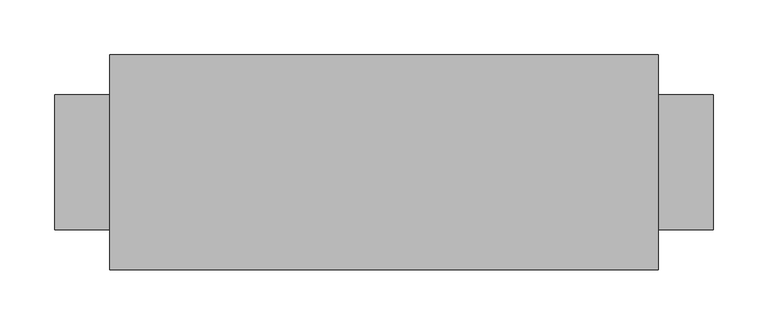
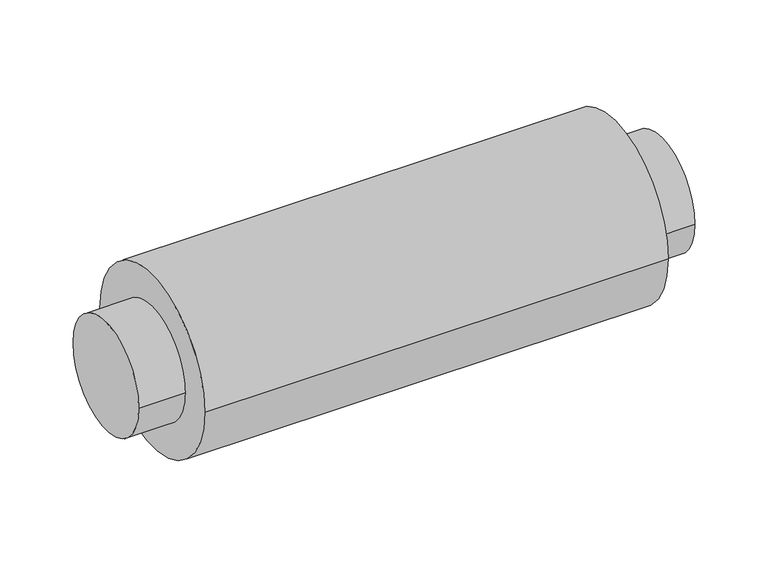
"""IFC4 building model written with IfcOpenShell, lengths in millimetres: damper geometry, VE-Tłumik_Akustyczny-ParaForma-Harmann-FLEXITEC : 125-0500."""

from ifc_helpers import new_model, si_unit, point, frame, origin, origin_2d, place, context, project, spatial, circle_curve, trimmed, segment, composite_curve, outline, extrude, source, transform, mapped, element, save


def damper_fdb4ce8a(model_context):
    return source(origin(), model_context, "Body", "SweptSolid", [
        extrude(outline(composite_curve([segment(trimmed(circle_curve(origin_2d(), 61.5), [point((-61.5, 0.0))], [point((61.5, 0.0))], False, "CARTESIAN"), True, "CONTINUOUS"), segment(trimmed(circle_curve(origin_2d(), 61.5), [point((61.5, 0.0))], [point((-61.5, 0.0))], False, "CARTESIAN"), True, "CONTINUOUS")], self_intersect=False)), frame((250.0, 0.0, 0.0), z_axis=(1.0, 0.0, 0.0), x_axis=(0.0, 1.0, 0.0)), (0.0, 0.0, 1.0), 50.0),
        extrude(outline(composite_curve([segment(trimmed(circle_curve(origin_2d(), 61.5), [point((-61.5, 0.0))], [point((61.5, 0.0))], False, "CARTESIAN"), True, "CONTINUOUS"), segment(trimmed(circle_curve(origin_2d(), 61.5), [point((61.5, 0.0))], [point((-61.5, 0.0))], False, "CARTESIAN"), True, "CONTINUOUS")], self_intersect=False)), frame((-300.0, 0.0, 0.0), z_axis=(1.0, 0.0, 0.0), x_axis=(0.0, 1.0, 0.0)), (0.0, 0.0, 1.0), 50.0),
        extrude(outline(composite_curve([segment(trimmed(circle_curve(origin_2d(), 97.95), [point((-97.95, 0.0))], [point((97.95, 0.0))], False, "CARTESIAN"), True, "CONTINUOUS"), segment(trimmed(circle_curve(origin_2d(), 97.95), [point((97.95, 0.0))], [point((-97.95, 0.0))], False, "CARTESIAN"), True, "CONTINUOUS")], self_intersect=False)), frame((-250.0, 0.0, 0.0), z_axis=(1.0, 0.0, 0.0), x_axis=(0.0, 1.0, 0.0)), (0.0, 0.0, 1.0), 500.0),
    ])


if __name__ == "__main__":
    model = new_model("IFC4")
    model_context = context("Model", 3, world=origin())
    ifc_project = project(units=[si_unit("LENGTHUNIT", "METRE", prefix="MILLI")], contexts=[model_context])
    site = spatial("IfcSite", under=ifc_project)
    building = spatial("IfcBuilding", under=site)
    placement = place(None, origin())
    damper_shape = damper_fdb4ce8a(model_context)
    element("IfcDamper", 1, ObjectType="VE-Tłumik_Akustyczny-ParaForma-Harmann-FLEXITEC : 125-0500", at=placement, inside=building, context=model_context, shape_type="MappedRepresentation", body=[
        mapped(damper_shape, transform((0.0, 0.0, 0.0), x_axis=(1.0, 0.0, 0.0), y_axis=(0.0, 1.0, 0.0), z_axis=(0.0, 0.0, 1.0))),
    ])
    save(model, "model.ifc")
